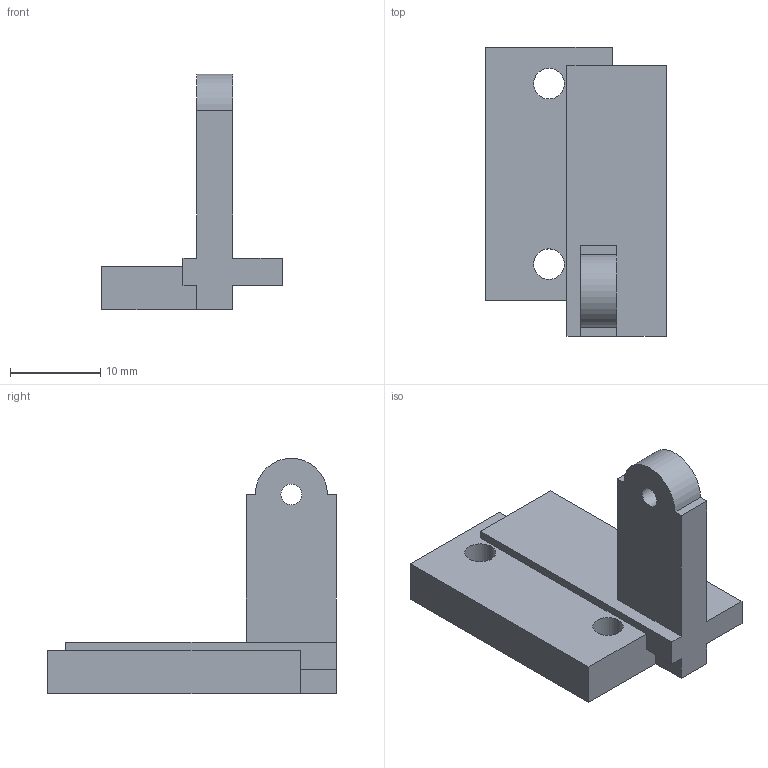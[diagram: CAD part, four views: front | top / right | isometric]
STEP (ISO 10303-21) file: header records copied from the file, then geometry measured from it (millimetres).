
FILE_DESCRIPTION(('Open CASCADE Model'),'2;1');
FILE_NAME('DEH_bracket','2026-11-05T16:12:41',('Author'),('Open CASCADE' ),'Open CASCADE STEP processor 7.9','build123d','Unknown');
FILE_SCHEMA(('AUTOMOTIVE_DESIGN { 1 0 10303 214 1 1 1 1 }'));
Length unit declared in the file: millimetre
Products named in the file (2): DEH_bracket
Assembly tree (1 placements, depth 2):
  DEH_bracket
    DEH_bracket
Bounding box: 20 x 32 x 26.08 mm (x, y, z)
Volume: 3301.7 mm3; surface area: 2341.2 mm2
Topology: 1 solids, 1 shells, 25 faces, 69 edges, 46 vertices
Faces by surface type: plane 21, cylinder 4
Full cylindrical faces by diameter (mm): 2.3 x1, 3.4 x2
Entity records: 1750 total; most frequent: CARTESIAN_POINT 282, DIRECTION 267, LINE 189, VECTOR 189, ORIENTED_EDGE 138, PCURVE 138, DEFINITIONAL_REPRESENTATION 138, EDGE_CURVE 69
